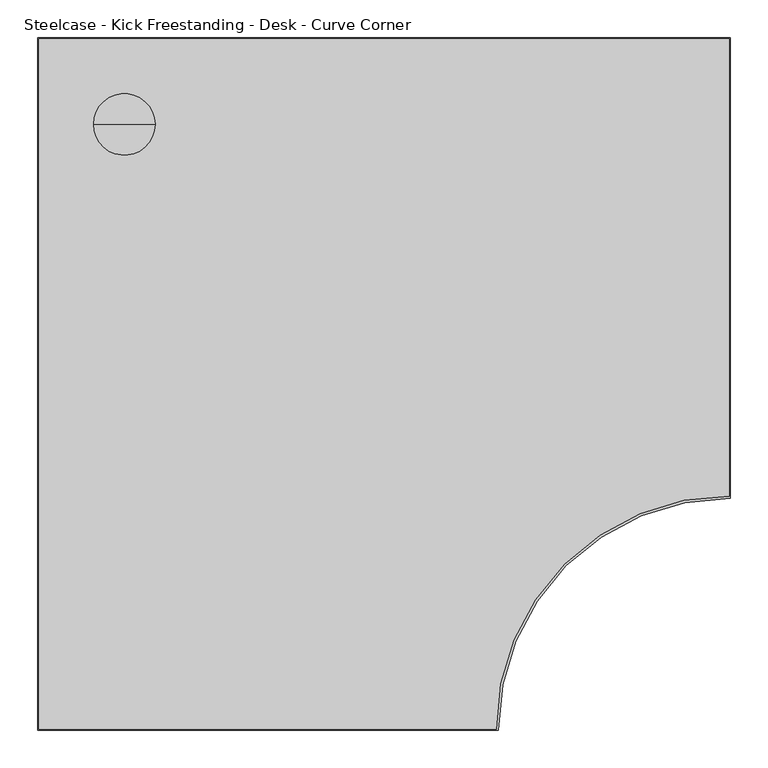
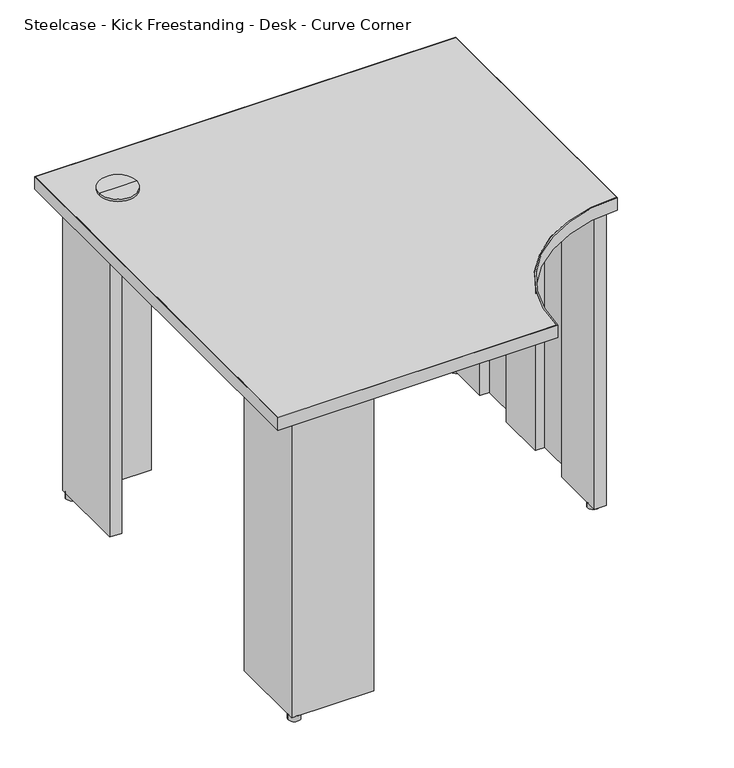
"""IFC4 building model written with IfcOpenShell, lengths in millimetres: furniture geometry, Steelcase - Kick Freestanding - Desk - Curve Corner : 24D x 36W - Right Full End Panel/Left Clear Access Support - LPL."""

from ifc_helpers import new_model, si_unit, point, frame, frame_2d, origin, origin_with_axes, place, context, project, spatial, polyline, circle_curve, trimmed, segment, composite_curve, outline, extrude, source, transform, mapped, element, save
from ifc_brep_helpers import plane_surface, cylinder_surface, advanced_brep


def steelcase_kick_freestanding_desk_curve_corner_a3942ddb(model_context):
    return source(origin(), model_context, "Body", "SolidModel", [
        extrude(outline(composite_curve([segment(trimmed(circle_curve(frame_2d((886.4853521, -565.8064761)), 12.7), [point((873.7853521, -565.8064761))], [point((899.1853521, -565.8064761))], False, "CARTESIAN"), True, "CONTINUOUS"), segment(trimmed(circle_curve(frame_2d((886.4853521, -565.8064761)), 12.7), [point((899.1853521, -565.8064761))], [point((873.7853521, -565.8064761))], False, "CARTESIAN"), True, "CONTINUOUS")], self_intersect=False)), origin_with_axes(), (0.0, 0.0, 1.0), 12.446),
        extrude(outline(polyline([(215.8999939, -63.5), (63.5, -63.5), (63.5, -215.8999939), (38.1, -215.8999939), (38.1, -38.1), (215.8999939, -38.1), (215.8999939, -63.5)])), frame((0.0, 0.0, 12.446), z_axis=(0.0, 0.0, 1.0), x_axis=(1.0, 0.0, 0.0)), (0.0, 0.0, 1.0), 682.498),
        extrude(outline(polyline([(721.6393822, -63.5), (721.6393822, -38.1), (899.4393579, -38.1), (899.4393579, -592.582), (873.5313463, -592.582), (873.5313463, -469.5444), (893.698945, -469.5444), (893.698945, -369.824), (873.5313463, -369.824), (873.5313463, -261.0866), (893.698945, -261.0866), (893.698945, -161.3662), (873.5313463, -161.3662), (873.5313463, -63.5), (721.6393822, -63.5)])), frame((0.0, 0.0, 12.446), z_axis=(0.0, 0.0, 1.0), x_axis=(1.0, 0.0, 0.0)), (0.0, 0.0, 1.0), 682.498),
        advanced_brep(
        [(114.3, -114.3, 728.98), (154.94, -114.3, 728.98), (73.66, -114.3, 728.98), (76.1699693, -114.3, 694.944), (152.4300307, -114.3, 694.944), (114.3, -114.3, 694.944), (76.1699693, -114.3, 723.9), (152.4300307, -114.3, 723.9), (73.66, -114.3, 723.9), (154.94, -114.3, 723.9)],
        [
            (0, 1),
            (1, 2, circle_curve(frame((114.3, -114.3, 728.98), z_axis=(0.0, 0.0, 1.0), x_axis=(1.0, 0.0, 0.0)), 40.64)),
            (2, 0),
            (2, 1, circle_curve(frame((114.3, -114.3, 728.98), z_axis=(0.0, 0.0, 1.0), x_axis=(1.0, 0.0, 0.0)), 40.64)),
            (3, 4, circle_curve(frame((114.3, -114.3, 694.944), z_axis=(0.0, 0.0, -1.0), x_axis=(1.0, 0.0, 0.0)), 38.1300307)),
            (4, 5),
            (5, 3),
            (4, 3, circle_curve(frame((114.3, -114.3, 694.944), z_axis=(0.0, 0.0, -1.0), x_axis=(1.0, 0.0, 0.0)), 38.1300307)),
            (6, 7, circle_curve(frame((114.3, -114.3, 723.9), z_axis=(0.0, 0.0, -1.0), x_axis=(1.0, 0.0, 0.0)), 38.1300307)),
            (7, 4),
            (3, 6),
            (7, 6, circle_curve(frame((114.3, -114.3, 723.9), z_axis=(0.0, 0.0, -1.0), x_axis=(1.0, 0.0, 0.0)), 38.1300307)),
            (8, 9, circle_curve(frame((114.3, -114.3, 723.9), z_axis=(0.0, 0.0, -1.0), x_axis=(1.0, 0.0, 0.0)), 40.64)),
            (9, 7),
            (6, 8),
            (9, 8, circle_curve(frame((114.3, -114.3, 723.9), z_axis=(0.0, 0.0, -1.0), x_axis=(1.0, 0.0, 0.0)), 40.64)),
            (1, 9),
            (8, 2),
        ],
        [
            plane_surface(frame((114.3, -114.3, 728.98), z_axis=(0.0, 0.0, 1.0), x_axis=(1.0, 0.0, 0.0))),
            plane_surface(frame((114.3, -114.3, 694.944), z_axis=(0.0, 0.0, -1.0), x_axis=(1.0, 0.0, 0.0))),
            cylinder_surface(frame((114.3, -114.3, 728.98), z_axis=(0.0, 0.0, 1.0), x_axis=(1.0, 0.0, 0.0)), 38.1300307),
            plane_surface(frame((114.3, -114.3, 723.9), z_axis=(0.0, 0.0, -1.0), x_axis=(1.0, 0.0, 0.0))),
            cylinder_surface(frame((114.3, -114.3, 728.98), z_axis=(0.0, 0.0, 1.0), x_axis=(1.0, 0.0, 0.0)), 40.64),
        ],
        [
            (0, [[1, 2, 3]]),
            (0, [[-3, 4, -1]]),
            (1, [[5, 6, 7]]),
            (1, [[8, -7, -6]]),
            (2, [[9, 10, -5, 11]]),
            (2, [[12, -11, -8, -10]]),
            (3, [[13, 14, -9, 15]]),
            (3, [[16, -15, -12, -14]]),
            (4, [[-2, 17, -13, 18]]),
            (4, [[-4, -18, -16, -17]]),
        ],
    ),
        extrude(outline(composite_curve([segment(trimmed(circle_curve(frame_2d((50.8, -50.8)), 12.7), [point((38.1, -50.8))], [point((63.5, -50.8))], False, "CARTESIAN"), True, "CONTINUOUS"), segment(trimmed(circle_curve(frame_2d((50.8, -50.8)), 12.7), [point((63.5, -50.8))], [point((38.1, -50.8))], False, "CARTESIAN"), True, "CONTINUOUS")], self_intersect=False)), origin_with_axes(), (0.0, 0.0, 1.0), 12.446),
        extrude(outline(composite_curve([segment(trimmed(circle_curve(frame_2d((50.8, -887.7300073)), 12.7484998), [point((38.0515002, -887.7300073))], [point((63.5484998, -887.7300073))], False, "CARTESIAN"), True, "CONTINUOUS"), segment(trimmed(circle_curve(frame_2d((50.8, -887.7300073)), 12.7484998), [point((63.5484998, -887.7300073))], [point((38.0515002, -887.7300073))], False, "CARTESIAN"), True, "CONTINUOUS")], self_intersect=False)), origin_with_axes(), (0.0, 0.0, 1.0), 12.446),
        extrude(outline(composite_curve([segment(trimmed(circle_curve(frame_2d((886.4853521, -50.8)), 12.7), [point((873.7853521, -50.8))], [point((899.1853521, -50.8))], False, "CARTESIAN"), True, "CONTINUOUS"), segment(trimmed(circle_curve(frame_2d((886.4853521, -50.8)), 12.7), [point((899.1853521, -50.8))], [point((873.7853521, -50.8))], False, "CARTESIAN"), True, "CONTINUOUS")], self_intersect=False)), origin_with_axes(), (0.0, 0.0, 1.0), 12.446),
        extrude(outline(polyline([(215.8999939, -875.0300194), (215.8999939, -900.4299952), (38.1, -900.4299952), (38.1, -722.6300194), (63.5, -722.6300194), (63.5, -875.0300194), (215.8999939, -875.0300194)])), frame((0.0, 0.0, 12.446), z_axis=(0.0, 0.0, 1.0), x_axis=(1.0, 0.0, 0.0)), (0.0, 0.0, 1.0), 682.498),
        extrude(outline(composite_curve([segment(polyline([(0.9906, -913.4093628), (0.9906, -0.9906), (913.4093628, -0.9906), (913.4093628, -605.3354109)]), True, "CONTINUOUS"), segment(trimmed(circle_curve(frame_2d((912.1393458, -912.1393458)), 306.8065636), [point((913.4093628, -605.3354109))], [point((605.3354109, -913.4093628))], True, "CARTESIAN"), True, "CONTINUOUS"), segment(polyline([(605.3354109, -913.4093628), (0.9906, -913.4093628)]), True, "CONTINUOUS")], self_intersect=False)), frame((0.0, 0.0, 694.944), z_axis=(0.0, 0.0, 1.0), x_axis=(1.0, 0.0, 0.0)), (0.0, 0.0, 1.0), 28.956),
        extrude(outline(composite_curve([segment(polyline([(914.4, 0.0), (914.4, -608.332629)]), True, "CONTINUOUS"), segment(trimmed(circle_curve(frame_2d((913.129983, -913.129983)), 304.8), [point((914.4, -608.332629))], [point((608.332629, -914.4))], True, "CARTESIAN"), True, "CONTINUOUS"), segment(polyline([(608.332629, -914.4), (0.0, -914.4), (0.0, 0.0), (914.4, 0.0)]), True, "CONTINUOUS")], self_intersect=False), holes=[composite_curve([segment(polyline([(913.4093628, -0.9906), (0.9906, -0.9906), (0.9906, -913.4093628), (605.3354109, -913.4093628)]), True, "CONTINUOUS"), segment(trimmed(circle_curve(frame_2d((912.1393458, -912.1393458)), 306.8065636), [point((605.3354109, -913.4093628))], [point((913.4093628, -605.3354109))], False, "CARTESIAN"), True, "CONTINUOUS"), segment(polyline([(913.4093628, -605.3354109), (913.4093628, -0.9906)]), True, "CONTINUOUS")], self_intersect=False)]), frame((0.0, 0.0, 694.944), z_axis=(0.0, 0.0, 1.0), x_axis=(1.0, 0.0, 0.0)), (0.0, 0.0, 1.0), 28.956),
    ])


if __name__ == "__main__":
    model = new_model("IFC4")
    model_context = context("Model", 3, world=origin())
    ifc_project = project(units=[si_unit("LENGTHUNIT", "METRE", prefix="MILLI")], contexts=[model_context])
    site = spatial("IfcSite", under=ifc_project)
    building = spatial("IfcBuilding", under=site)
    placement = place(None, origin())
    steelcase_kick_freestanding_desk_curve_corner_shape = steelcase_kick_freestanding_desk_curve_corner_a3942ddb(model_context)
    element("IfcFurniture", 1, ObjectType="Steelcase - Kick Freestanding - Desk - Curve Corner : 24D x 36W - Right Full End Panel/Left Clear Access Support - LPL", at=placement, inside=building, context=model_context, shape_type="MappedRepresentation", body=[
        mapped(steelcase_kick_freestanding_desk_curve_corner_shape, transform((0.0, 0.0, 0.0), x_axis=(1.0, 0.0, 0.0), y_axis=(0.0, 1.0, 0.0), z_axis=(0.0, 0.0, 1.0))),
    ])
    save(model, "model.ifc")
